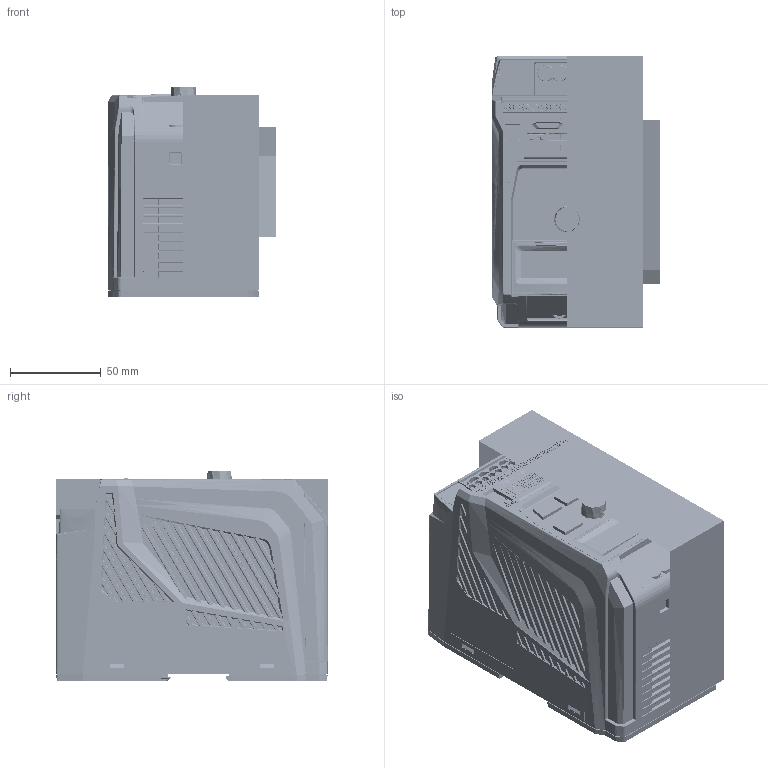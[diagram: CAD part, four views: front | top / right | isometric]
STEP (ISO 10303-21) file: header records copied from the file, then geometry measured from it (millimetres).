
FILE_DESCRIPTION((''),'2;1');
FILE_NAME('CA100-2R2A_ASM','2024-05-29T',('Administrator'),(''),'PRO/ENGINEER BY PARAMETRIC TECHNOLOGY CORPORATION, 2011310','PRO/ENGINEER BY PARAMETRIC TECHNOLOGY CORPORATION, 2011310','');
FILE_SCHEMA(('AUTOMOTIVE_DESIGN_CC2 { 1 2 10303 214 -1 1 5 2 }'));
Products named in the file (38): CA100-2R2A-SJ-01; CA100-2R2A-SJ-02; CA100-2R2A-SJ-04; CA100-2R2A-SJ-07; CA100-2R2A-SJ-07-1; CA100-2R2A-SJ-07-2; CA100-2R2A-SJ-01-; CA100-2R2A-SJ_ASM; QDB; QD0904; 3SDRI; 6912184100XX_MASS; 6912184100XX_PIN; 6912184100XX_VIS; 691218410003; ASSEM1_ASM; EU5-03-762-07_ASM; PRT0003; 691218410002; ASM0001_ASM; EU5-02-762-07_ASM; QDB_ASM; 2R2-CM; EU1_5-14-5_08-00_1_; LED; DWQ_2; ANJIAN; BM; 485; 2R2-CM_ASM; 2R2-PCB_ASM; CA100-2R2A-SJ-05; CA100-2R2A-SJ-06; CA100-2R2A-SJ-03; JIANPAN99_ASM; 5020; QJ_ASM; CA100-2R2A_ASM
Assembly tree (51 placements, depth 6):
  CA100-2R2A_ASM
    CA100-2R2A-SJ_ASM
      CA100-2R2A-SJ-01
      CA100-2R2A-SJ-02
      CA100-2R2A-SJ-04
      CA100-2R2A-SJ-07
      CA100-2R2A-SJ-07-1
      CA100-2R2A-SJ-07-2
      CA100-2R2A-SJ-01-
    2R2-PCB_ASM
      QDB_ASM
        QDB
        QD0904
        3SDRI
        EU5-03-762-07_ASM
          ASSEM1_ASM
            6912184100XX_MASS  x3
            6912184100XX_PIN  x3
            6912184100XX_VIS  x3
            691218410003
        EU5-02-762-07_ASM  x3
          ASM0001_ASM
            PRT0003  x2
            691218410002
      2R2-CM_ASM
        2R2-CM
        EU1_5-14-5_08-00_1_
        LED
        DWQ_2
        ANJIAN  x5
        BM  x2
        485
    JIANPAN99_ASM
      CA100-2R2A-SJ-05
      CA100-2R2A-SJ-06
      CA100-2R2A-SJ-03
    QJ_ASM
      5020
Bounding box: 92.51 x 149.04 x 115.1 mm (x, y, z)
Volume: 361738.8 mm3; surface area: 566694.2 mm2
Topology: 48 solids, 104 shells, 9896 faces, 26269 edges, 16835 vertices
Faces by surface type: plane 5072, cylinder 2170, bspline 1705, cone 363, torus 314, extrusion 171, sphere 101
Entity records: 442818 total; most frequent: CARTESIAN_POINT 149173, ORIENTED_EDGE 48863, DIRECTION 38538, EDGE_CURVE 24613, PRESENTATION_STYLE_ASSIGNMENT 22520, STYLED_ITEM 21767, CURVE_STYLE 20813, VERTEX_POINT 15743
